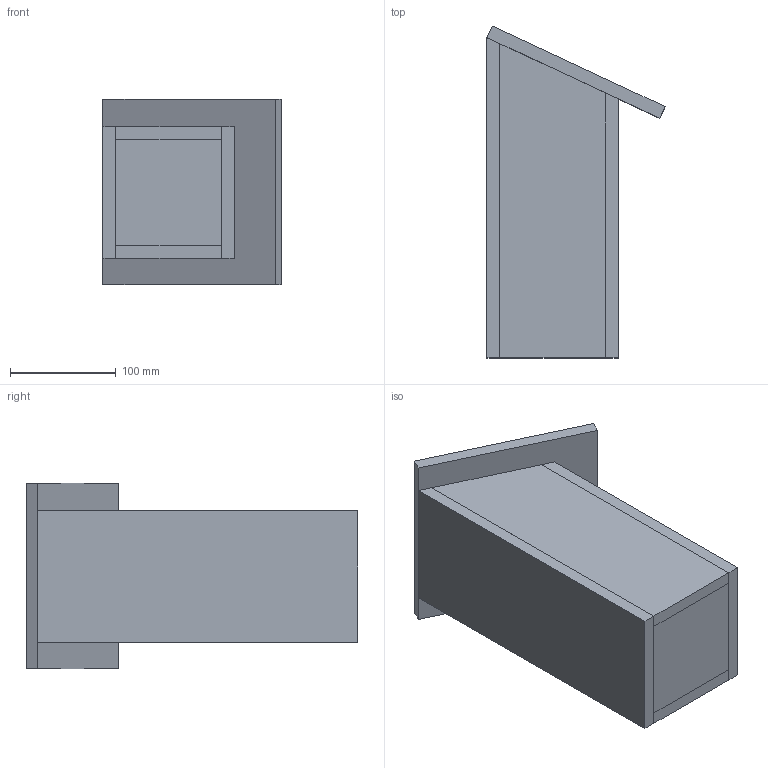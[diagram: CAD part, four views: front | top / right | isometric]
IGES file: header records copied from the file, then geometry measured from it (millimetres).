
Start section: SolidWorks IGES file using analytic representation for surfaces
Global section: file name: E:\Nichoir\IGS\Nichoir.IGS; native system: SolidWorks 2022; preprocessor: SolidWorks 2022; author: ludch; date: 220131.101947; units: millimetre
Bounding box: 168.21 x 313.1 x 175 mm (x, y, z)
Surface area: 378346.1 mm2 (no closed solid volume)
Topology: 0 solids, 0 shells, 38 faces, 216 edges, 216 vertices
Faces by surface type: bspline 36, revolution 2
